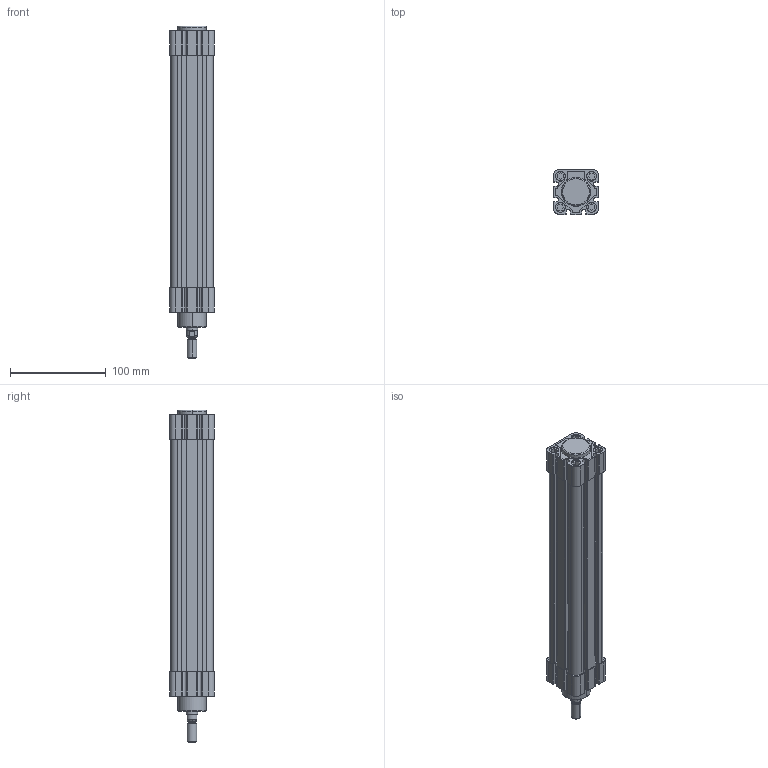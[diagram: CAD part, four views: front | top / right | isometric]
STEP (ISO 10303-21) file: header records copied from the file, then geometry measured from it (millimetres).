
FILE_DESCRIPTION((''),'2;1');
FILE_NAME('N11M20320200.stp','2010-01-06T14:33:39',('B. Petkovic 2010'),('AZ PNEUMATICA S.r.l.'),'Mechanical Desktop 2006','Mechanical Desktop 2006','Via Marco Biagi 6, I-20020 Misinto(MI) Italy, azpneu@tin.it');
FILE_SCHEMA(('CONFIG_CONTROL_DESIGN'));
Length unit declared in the file: millimetre
Products named in the file (2): N11M41250160; CILINDAR
Assembly tree (1 placements, depth 2):
  N11M41250160
    CILINDAR
Bounding box: 47 x 47 x 347 mm (x, y, z)
Volume: 525426.9 mm3; surface area: 93264.2 mm2
Topology: 1 solids, 1 shells, 470 faces, 1236 edges, 811 vertices
Faces by surface type: plane 266, cylinder 190, torus 6, cone 4, bspline 4
Entity records: 14894 total; most frequent: CARTESIAN_POINT 2761, DIRECTION 2605, ORIENTED_EDGE 2472, EDGE_CURVE 1236, AXIS2_PLACEMENT_3D 903, VERTEX_POINT 811, VECTOR 799, LINE 799
